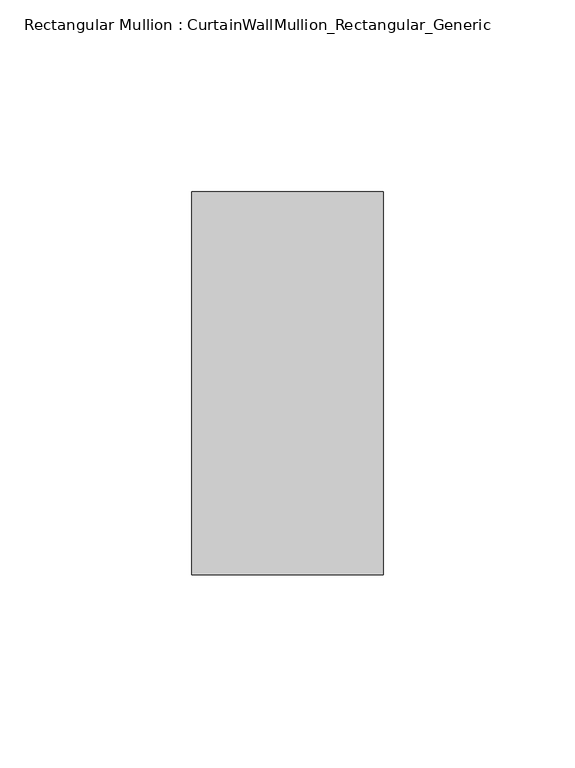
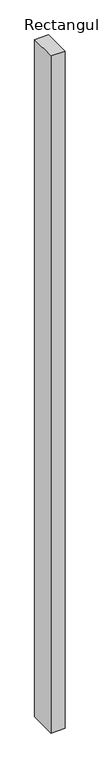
"""IFC4 building model written with IfcOpenShell, lengths in millimetres: member geometry, Rectangular Mullion : CurtainWallMullion_Rectangular_Generic."""

from ifc_helpers import new_model, si_unit, frame, origin, place, context, project, spatial, polyline, outline, extrude, source, transform, mapped, element, save


def rectangular_mullion_curtainwallmullion_rectangular_generic_41a09792(model_context):
    return source(origin(), model_context, "Body", "SweptSolid", [
        extrude(outline(polyline([(25.0, 50.0), (25.0, -50.0), (-25.0, -50.0), (-25.0, 50.0), (25.0, 50.0)])), frame((0.0, 0.0, -2543.3333335), z_axis=(0.0, 0.0, 1.0), x_axis=(1.0, 0.0, 0.0)), (0.0, 0.0, 1.0), 2543.3333335),
    ])


if __name__ == "__main__":
    model = new_model("IFC4")
    model_context = context("Model", 3, world=origin())
    ifc_project = project(units=[si_unit("LENGTHUNIT", "METRE", prefix="MILLI")], contexts=[model_context])
    site = spatial("IfcSite", under=ifc_project)
    building = spatial("IfcBuilding", under=site)
    placement = place(None, origin())
    rectangular_mullion_curtainwallmullion_rectangular_generic_shape = rectangular_mullion_curtainwallmullion_rectangular_generic_41a09792(model_context)
    element("IfcMember", 1, ObjectType="Rectangular Mullion : CurtainWallMullion_Rectangular_Generic", at=placement, inside=building, context=model_context, shape_type="MappedRepresentation", body=[
        mapped(rectangular_mullion_curtainwallmullion_rectangular_generic_shape, transform((0.0, 0.0, 0.0), x_axis=(1.0, 0.0, 0.0), y_axis=(0.0, 1.0, 0.0), z_axis=(0.0, 0.0, 1.0))),
    ])
    save(model, "model.ifc")
